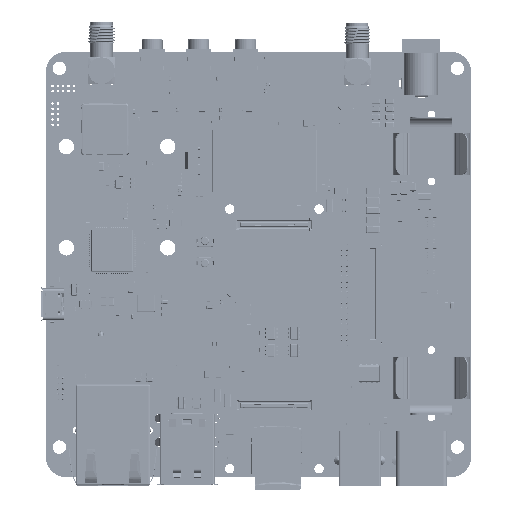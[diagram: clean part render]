
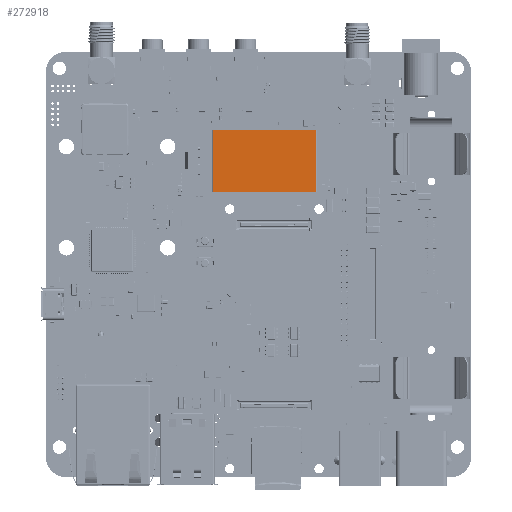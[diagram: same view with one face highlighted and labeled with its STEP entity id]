
A CAD part, top view. The second image highlights one B-rep face of the part: STEP entity #272918.
In plain terms, the highlighted planar face has unit normal (0, 0, 1) as drawn and (0, 1, 0) by its records, which use the part's own axes.
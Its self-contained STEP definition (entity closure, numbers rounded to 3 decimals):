
#272250 = VERTEX_POINT('',#272251);
#272251 = CARTESIAN_POINT('',(0.2,2.,-14.6));
#272304 = VERTEX_POINT('',#272305);
#272305 = CARTESIAN_POINT('',(0.2,2.,0.));
#272346 = VERTEX_POINT('',#272347);
#272347 = CARTESIAN_POINT('',(24.8,2.,-14.6));
#272398 = VERTEX_POINT('',#272399);
#272399 = CARTESIAN_POINT('',(24.8,2.,0.));
#272906 = EDGE_CURVE('',#272250,#272304,#272907,.T.);
#272907 = LINE('',#272908,#272909);
#272908 = CARTESIAN_POINT('',(0.2,2.,-14.6));
#272909 = VECTOR('',#272910,1.);
#272910 = DIRECTION('',(0.,0.,1.));
#272918 = ADVANCED_FACE('',(#272919),#272940,.F.);
#272919 = FACE_BOUND('',#272920,.T.);
#272920 = EDGE_LOOP('',(#272921,#272927,#272933,#272939));
#272921 = ORIENTED_EDGE('',*,*,#272922,.T.);
#272922 = EDGE_CURVE('',#272304,#272398,#272923,.T.);
#272923 = LINE('',#272924,#272925);
#272924 = CARTESIAN_POINT('',(0.,2.,0.));
#272925 = VECTOR('',#272926,1.);
#272926 = DIRECTION('',(1.,0.,0.));
#272927 = ORIENTED_EDGE('',*,*,#272928,.F.);
#272928 = EDGE_CURVE('',#272346,#272398,#272929,.T.);
#272929 = LINE('',#272930,#272931);
#272930 = CARTESIAN_POINT('',(24.8,2.,-14.6));
#272931 = VECTOR('',#272932,1.);
#272932 = DIRECTION('',(0.,0.,1.));
#272933 = ORIENTED_EDGE('',*,*,#272934,.F.);
#272934 = EDGE_CURVE('',#272250,#272346,#272935,.T.);
#272935 = LINE('',#272936,#272937);
#272936 = CARTESIAN_POINT('',(0.,2.,-14.6));
#272937 = VECTOR('',#272938,1.);
#272938 = DIRECTION('',(1.,0.,0.));
#272939 = ORIENTED_EDGE('',*,*,#272906,.T.);
#272940 = PLANE('',#272941);
#272941 = AXIS2_PLACEMENT_3D('',#272942,#272943,#272944);
#272942 = CARTESIAN_POINT('',(0.,2.,-14.6));
#272943 = DIRECTION('',(0.,-1.,0.));
#272944 = DIRECTION('',(0.,-0.,-1.));
